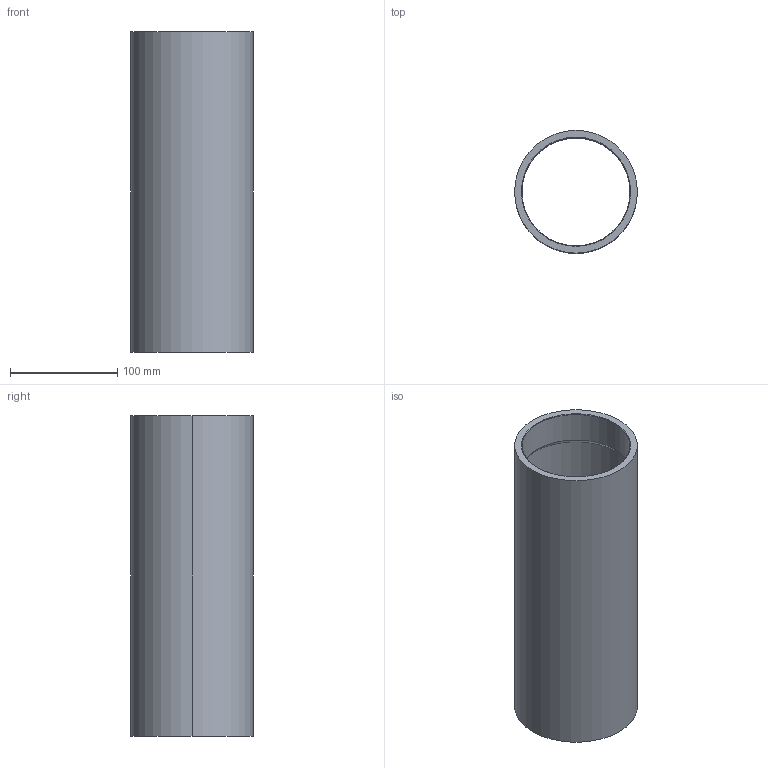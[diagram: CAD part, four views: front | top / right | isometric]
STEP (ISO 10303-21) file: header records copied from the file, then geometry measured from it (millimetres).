
FILE_DESCRIPTION (( 'STEP AP203' ), '1' );
FILE_NAME ('WTE4-M-TUBE-X3A.STEP', '2017-04-18T15:37:52', ( '' ), ( '' ), 'SwSTEP 2.0', 'SolidWorks 2014', '' );
FILE_SCHEMA (( 'CONFIG_CONTROL_DESIGN' ));
Length unit declared in the file: millimetre
Products named in the file (1): WTE4-M-TUBE-X3A
Bounding box: 114.3 x 114.3 x 298 mm (x, y, z)
Volume: 345337.9 mm3; surface area: 213220.9 mm2
Topology: 1 solids, 1 shells, 18 faces, 36 edges, 20 vertices
Faces by surface type: cone 8, cylinder 8, plane 2
Entity records: 545 total; most frequent: DIRECTION 94, CARTESIAN_POINT 75, ORIENTED_EDGE 72, AXIS2_PLACEMENT_3D 39, EDGE_CURVE 36, CIRCLE 20, VERTEX_POINT 20, EDGE_LOOP 20
